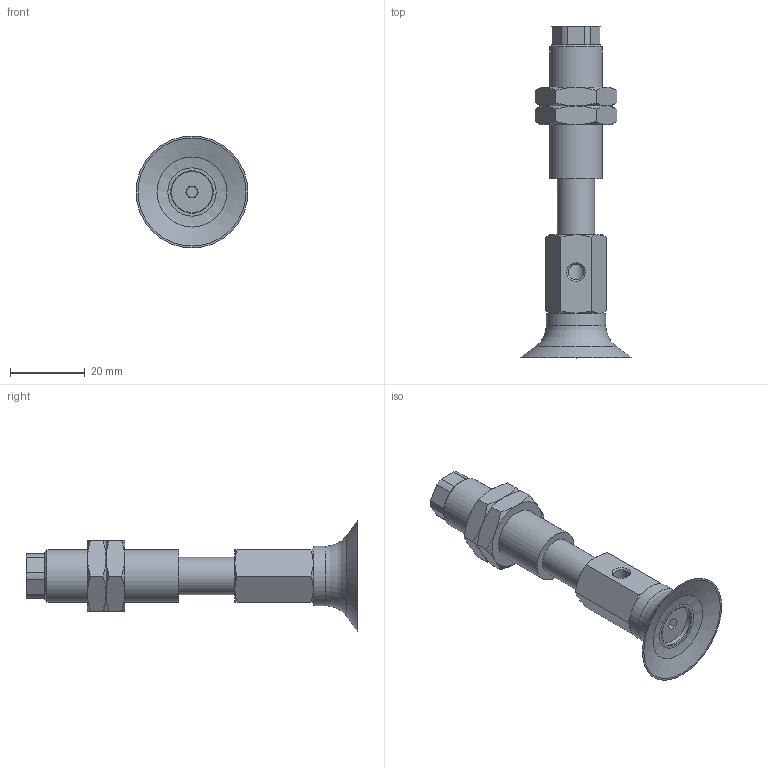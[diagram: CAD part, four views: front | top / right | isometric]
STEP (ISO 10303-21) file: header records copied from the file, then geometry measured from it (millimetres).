
FILE_DESCRIPTION(('STEP AP203'),'1');
FILE_NAME('.stp','2025-04-09T07:16:54',(' '),(' '),'Spatial InterOp 3D',' ',' ');
FILE_SCHEMA(('CONFIG_CONTROL_DESIGN'));
Length unit declared in the file: millimetre
Products named in the file (7): BNABPFYS-30-15-※; TN-PF-30-M6-NAPF; CONNECTOR-30-15; Nut-30-15-s; NAPFTS-30-15-FBODY; NAPFTS-30-15-MBODY; BPFG-30-※
Assembly tree (7 placements, depth 2):
  BNABPFYS-30-15-※
    TN-PF-30-M6-NAPF
    CONNECTOR-30-15
    Nut-30-15-s  x2
    NAPFTS-30-15-FBODY
    NAPFTS-30-15-MBODY
    BPFG-30-※
Bounding box: 30 x 89 x 30 mm (x, y, z)
Volume: 14710.8 mm3; surface area: 11427.6 mm2
Topology: 7 solids, 7 shells, 145 faces, 304 edges, 183 vertices
Faces by surface type: plane 66, cone 51, cylinder 22, torus 5, bspline 1
Full cylindrical faces by diameter (mm): 3 x2, 4.134 x2, 4.917 x1, 5 x1, 6 x2, 10 x2, 11 x2, 12.917 x2, 14 x1, 16 x1
Entity records: 3727 total; most frequent: CARTESIAN_POINT 924, DIRECTION 518, ORIENTED_EDGE 442, EDGE_CURVE 221, AXIS2_PLACEMENT_3D 219, EDGE_LOOP 176, VERTEX_POINT 153, FACE_OUTER_BOUND 143
